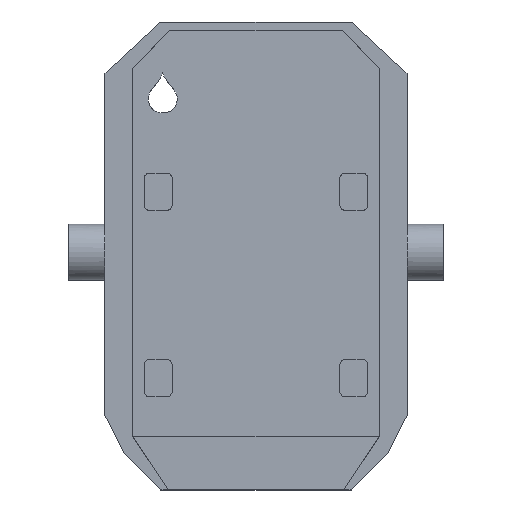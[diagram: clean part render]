
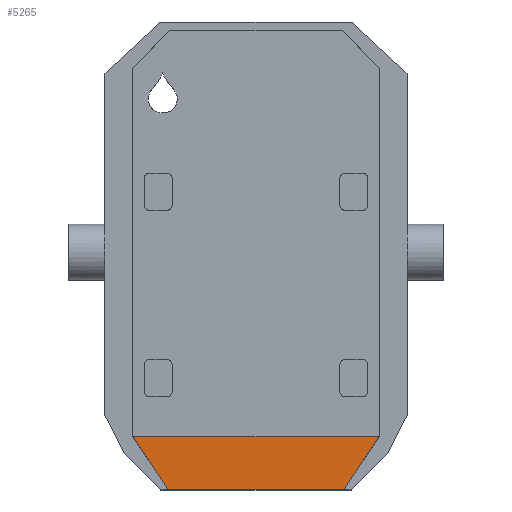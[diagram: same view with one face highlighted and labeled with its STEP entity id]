
A CAD part, top view. The second image highlights one B-rep face of the part: STEP entity #5265.
In plain terms, the highlighted planar face has unit normal (0, 0, 1).
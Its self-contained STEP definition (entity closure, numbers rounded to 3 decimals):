
#1903 = PLANE('',#1904);
#1904 = AXIS2_PLACEMENT_3D('',#1905,#1906,#1907);
#1905 = CARTESIAN_POINT('',(-10.2,96.,-4.25));
#1906 = DIRECTION('',(0.,1.,0.));
#1907 = DIRECTION('',(1.,0.,0.));
#3529 = VERTEX_POINT('',#3530);
#3530 = CARTESIAN_POINT('',(-9.417,96.,-1.75));
#3543 = PLANE('',#3544);
#3544 = AXIS2_PLACEMENT_3D('',#3545,#3546,#3547);
#3545 = CARTESIAN_POINT('',(-13.25,101.75,-1.75));
#3546 = DIRECTION('',(0.832,0.555,-0.));
#3547 = DIRECTION('',(0.555,-0.832,0.));
#3554 = EDGE_CURVE('',#3529,#3555,#3557,.T.);
#3555 = VERTEX_POINT('',#3556);
#3556 = CARTESIAN_POINT('',(9.417,96.,-1.75));
#3557 = SURFACE_CURVE('',#3558,(#3562,#3568),.PCURVE_S1.);
#3558 = LINE('',#3559,#3560);
#3559 = CARTESIAN_POINT('',(-5.1,96.,-1.75));
#3560 = VECTOR('',#3561,1.);
#3561 = DIRECTION('',(1.,0.,0.));
#3562 = PCURVE('',#1903,#3563);
#3563 = DEFINITIONAL_REPRESENTATION('',(#3564),#3567);
#3564 = B_SPLINE_CURVE_WITH_KNOTS('',1,(#3565,#3566),.UNSPECIFIED.,.F.,
  .F.,(2,2),(-5.1,15.3),.PIECEWISE_BEZIER_KNOTS.);
#3565 = CARTESIAN_POINT('',(0.,-2.5));
#3566 = CARTESIAN_POINT('',(20.4,-2.5));
#3567 = ( GEOMETRIC_REPRESENTATION_CONTEXT(2) 
PARAMETRIC_REPRESENTATION_CONTEXT() REPRESENTATION_CONTEXT('2D SPACE',''
  ) );
#3568 = PCURVE('',#3569,#3574);
#3569 = PLANE('',#3570);
#3570 = AXIS2_PLACEMENT_3D('',#3571,#3572,#3573);
#3571 = CARTESIAN_POINT('',(0.,120.66,-1.75));
#3572 = DIRECTION('',(0.,0.,1.));
#3573 = DIRECTION('',(1.,0.,-0.));
#3574 = DEFINITIONAL_REPRESENTATION('',(#3575),#3578);
#3575 = B_SPLINE_CURVE_WITH_KNOTS('',1,(#3576,#3577),.UNSPECIFIED.,.F.,
  .F.,(2,2),(-5.1,15.3),.PIECEWISE_BEZIER_KNOTS.);
#3576 = CARTESIAN_POINT('',(-10.2,-24.66));
#3577 = CARTESIAN_POINT('',(10.2,-24.66));
#3578 = ( GEOMETRIC_REPRESENTATION_CONTEXT(2) 
PARAMETRIC_REPRESENTATION_CONTEXT() REPRESENTATION_CONTEXT('2D SPACE',''
  ) );
#3595 = PLANE('',#3596);
#3596 = AXIS2_PLACEMENT_3D('',#3597,#3598,#3599);
#3597 = CARTESIAN_POINT('',(9.25,95.75,-1.75));
#3598 = DIRECTION('',(-0.832,0.555,0.));
#3599 = DIRECTION('',(0.555,0.832,0.));
#3852 = PLANE('',#3853);
#3853 = AXIS2_PLACEMENT_3D('',#3854,#3855,#3856);
#3854 = CARTESIAN_POINT('',(-13.35,101.7,-3.25));
#3855 = DIRECTION('',(0.,1.,0.));
#3856 = DIRECTION('',(1.,0.,0.));
#5173 = EDGE_CURVE('',#3555,#5174,#5176,.T.);
#5174 = VERTEX_POINT('',#5175);
#5175 = CARTESIAN_POINT('',(13.217,101.7,-1.75));
#5176 = SURFACE_CURVE('',#5177,(#5181,#5188),.PCURVE_S1.);
#5177 = LINE('',#5178,#5179);
#5178 = CARTESIAN_POINT('',(9.25,95.75,-1.75));
#5179 = VECTOR('',#5180,1.);
#5180 = DIRECTION('',(0.555,0.832,0.));
#5181 = PCURVE('',#3595,#5182);
#5182 = DEFINITIONAL_REPRESENTATION('',(#5183),#5187);
#5183 = LINE('',#5184,#5185);
#5184 = CARTESIAN_POINT('',(0.,0.));
#5185 = VECTOR('',#5186,1.);
#5186 = DIRECTION('',(1.,0.));
#5187 = ( GEOMETRIC_REPRESENTATION_CONTEXT(2) 
PARAMETRIC_REPRESENTATION_CONTEXT() REPRESENTATION_CONTEXT('2D SPACE',''
  ) );
#5188 = PCURVE('',#3569,#5189);
#5189 = DEFINITIONAL_REPRESENTATION('',(#5190),#5194);
#5190 = LINE('',#5191,#5192);
#5191 = CARTESIAN_POINT('',(9.25,-24.91));
#5192 = VECTOR('',#5193,1.);
#5193 = DIRECTION('',(0.555,0.832));
#5194 = ( GEOMETRIC_REPRESENTATION_CONTEXT(2) 
PARAMETRIC_REPRESENTATION_CONTEXT() REPRESENTATION_CONTEXT('2D SPACE',''
  ) );
#5265 = ADVANCED_FACE('',(#5266),#3569,.T.);
#5266 = FACE_BOUND('',#5267,.T.);
#5267 = EDGE_LOOP('',(#5268,#5289,#5310,#5311));
#5268 = ORIENTED_EDGE('',*,*,#5269,.T.);
#5269 = EDGE_CURVE('',#5174,#5270,#5272,.T.);
#5270 = VERTEX_POINT('',#5271);
#5271 = CARTESIAN_POINT('',(-13.217,101.7,-1.75));
#5272 = SURFACE_CURVE('',#5273,(#5277,#5283),.PCURVE_S1.);
#5273 = LINE('',#5274,#5275);
#5274 = CARTESIAN_POINT('',(-6.675,101.7,-1.75));
#5275 = VECTOR('',#5276,1.);
#5276 = DIRECTION('',(-1.,0.,0.));
#5277 = PCURVE('',#3569,#5278);
#5278 = DEFINITIONAL_REPRESENTATION('',(#5279),#5282);
#5279 = B_SPLINE_CURVE_WITH_KNOTS('',1,(#5280,#5281),.UNSPECIFIED.,.F.,
  .F.,(2,2),(-19.925,6.575),.PIECEWISE_BEZIER_KNOTS.);
#5280 = CARTESIAN_POINT('',(13.25,-18.96));
#5281 = CARTESIAN_POINT('',(-13.25,-18.96));
#5282 = ( GEOMETRIC_REPRESENTATION_CONTEXT(2) 
PARAMETRIC_REPRESENTATION_CONTEXT() REPRESENTATION_CONTEXT('2D SPACE',''
  ) );
#5283 = PCURVE('',#3852,#5284);
#5284 = DEFINITIONAL_REPRESENTATION('',(#5285),#5288);
#5285 = B_SPLINE_CURVE_WITH_KNOTS('',1,(#5286,#5287),.UNSPECIFIED.,.F.,
  .F.,(2,2),(-19.925,6.575),.PIECEWISE_BEZIER_KNOTS.);
#5286 = CARTESIAN_POINT('',(26.6,-1.5));
#5287 = CARTESIAN_POINT('',(0.1,-1.5));
#5288 = ( GEOMETRIC_REPRESENTATION_CONTEXT(2) 
PARAMETRIC_REPRESENTATION_CONTEXT() REPRESENTATION_CONTEXT('2D SPACE',''
  ) );
#5289 = ORIENTED_EDGE('',*,*,#5290,.T.);
#5290 = EDGE_CURVE('',#5270,#3529,#5291,.T.);
#5291 = SURFACE_CURVE('',#5292,(#5296,#5303),.PCURVE_S1.);
#5292 = LINE('',#5293,#5294);
#5293 = CARTESIAN_POINT('',(-13.25,101.75,-1.75));
#5294 = VECTOR('',#5295,1.);
#5295 = DIRECTION('',(0.555,-0.832,0.));
#5296 = PCURVE('',#3569,#5297);
#5297 = DEFINITIONAL_REPRESENTATION('',(#5298),#5302);
#5298 = LINE('',#5299,#5300);
#5299 = CARTESIAN_POINT('',(-13.25,-18.91));
#5300 = VECTOR('',#5301,1.);
#5301 = DIRECTION('',(0.555,-0.832));
#5302 = ( GEOMETRIC_REPRESENTATION_CONTEXT(2) 
PARAMETRIC_REPRESENTATION_CONTEXT() REPRESENTATION_CONTEXT('2D SPACE',''
  ) );
#5303 = PCURVE('',#3543,#5304);
#5304 = DEFINITIONAL_REPRESENTATION('',(#5305),#5309);
#5305 = LINE('',#5306,#5307);
#5306 = CARTESIAN_POINT('',(0.,0.));
#5307 = VECTOR('',#5308,1.);
#5308 = DIRECTION('',(1.,0.));
#5309 = ( GEOMETRIC_REPRESENTATION_CONTEXT(2) 
PARAMETRIC_REPRESENTATION_CONTEXT() REPRESENTATION_CONTEXT('2D SPACE',''
  ) );
#5310 = ORIENTED_EDGE('',*,*,#3554,.T.);
#5311 = ORIENTED_EDGE('',*,*,#5173,.T.);
